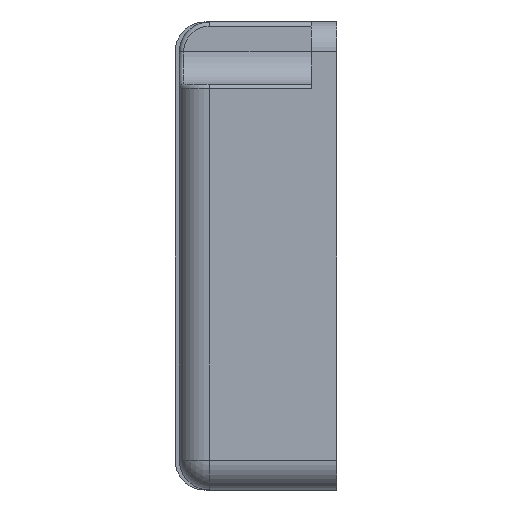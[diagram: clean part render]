
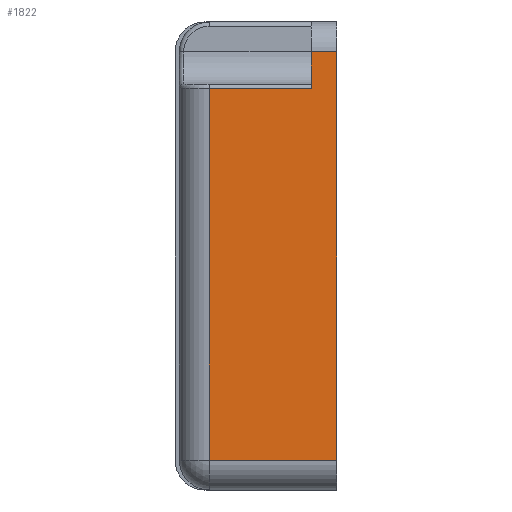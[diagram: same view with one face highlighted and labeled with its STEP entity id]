
A CAD part, left-side view. The second image highlights one B-rep face of the part: STEP entity #1822.
In plain terms, the highlighted planar face has unit normal (-1, 0, 0).
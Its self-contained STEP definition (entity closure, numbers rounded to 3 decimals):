
#28 = VERTEX_POINT ( 'NONE', #299 ) ;
#29 = VERTEX_POINT ( 'NONE', #298 ) ;
#30 = VERTEX_POINT ( 'NONE', #300 ) ;
#31 = VERTEX_POINT ( 'NONE', #1884 ) ;
#48 = VERTEX_POINT ( 'NONE', #478 ) ;
#74 = VERTEX_POINT ( 'NONE', #500 ) ;
#113 = ORIENTED_EDGE ( 'NONE', *, *, #1639, .F. ) ;
#114 = ORIENTED_EDGE ( 'NONE', *, *, #1640, .T. ) ;
#115 = ORIENTED_EDGE ( 'NONE', *, *, #1641, .T. ) ;
#116 = ORIENTED_EDGE ( 'NONE', *, *, #1642, .T. ) ;
#117 = ORIENTED_EDGE ( 'NONE', *, *, #1643, .T. ) ;
#118 = ORIENTED_EDGE ( 'NONE', *, *, #1644, .T. ) ;
#298 = CARTESIAN_POINT ( 'NONE',  ( -72.75, 15., -24. ) ) ;
#299 = CARTESIAN_POINT ( 'NONE',  ( -72.75, 15., 19.7 ) ) ;
#300 = CARTESIAN_POINT ( 'NONE',  ( -72.75, 0., -24. ) ) ;
#478 = CARTESIAN_POINT ( 'NONE',  ( -72.75, 3., 24. ) ) ;
#500 = CARTESIAN_POINT ( 'NONE',  ( -72.75, 3., 19.7 ) ) ;
#588 = VECTOR ( 'NONE', #702, 1000. ) ;
#660 = LINE ( 'NONE', #682, #674 ) ;
#667 = LINE ( 'NONE', #691, #670 ) ;
#669 = LINE ( 'NONE', #693, #672 ) ;
#670 = VECTOR ( 'NONE', #692, 1000. ) ;
#672 = VECTOR ( 'NONE', #695, 1000. ) ;
#673 = LINE ( 'NONE', #697, #676 ) ;
#674 = VECTOR ( 'NONE', #696, 1000. ) ;
#675 = LINE ( 'NONE', #699, #678 ) ;
#676 = VECTOR ( 'NONE', #698, 1000. ) ;
#677 = LINE ( 'NONE', #701, #588 ) ;
#678 = VECTOR ( 'NONE', #700, 1000. ) ;
#682 = CARTESIAN_POINT ( 'NONE',  ( -72.75, 15., -27.5 ) ) ;
#691 = CARTESIAN_POINT ( 'NONE',  ( -72.75, 3., 27.5 ) ) ;
#692 = DIRECTION ( 'NONE',  ( 0., 0., 1. ) ) ;
#693 = CARTESIAN_POINT ( 'NONE',  ( -72.75, 19., 19.7 ) ) ;
#695 = DIRECTION ( 'NONE',  ( 0., 1., 0. ) ) ;
#696 = DIRECTION ( 'NONE',  ( 0., 0., -1. ) ) ;
#697 = CARTESIAN_POINT ( 'NONE',  ( -72.75, 19., -24. ) ) ;
#698 = DIRECTION ( 'NONE',  ( 0., -1., 0. ) ) ;
#699 = CARTESIAN_POINT ( 'NONE',  ( -72.75, 0., -27.5 ) ) ;
#700 = DIRECTION ( 'NONE',  ( 0., 0., 1. ) ) ;
#701 = CARTESIAN_POINT ( 'NONE',  ( -72.75, 19., 24. ) ) ;
#702 = DIRECTION ( 'NONE',  ( 0., 1., 0. ) ) ;
#1063 = FACE_OUTER_BOUND ( 'NONE', #1597, .T. ) ;
#1125 = CARTESIAN_POINT ( 'NONE',  ( -72.75, 19., -27.5 ) ) ;
#1133 = DIRECTION ( 'NONE',  ( 1., 0., 0. ) ) ;
#1137 = DIRECTION ( 'NONE',  ( 0., 0., -1. ) ) ;
#1195 = PLANE ( 'NONE',  #1214 ) ;
#1214 = AXIS2_PLACEMENT_3D ( 'NONE', #1125, #1133, #1137 ) ;
#1597 = EDGE_LOOP ( 'NONE', ( #113, #114, #115, #116, #117, #118 ) ) ;
#1639 = EDGE_CURVE ( 'NONE', #74, #48, #667, .T. ) ;
#1640 = EDGE_CURVE ( 'NONE', #74, #28, #669, .T. ) ;
#1641 = EDGE_CURVE ( 'NONE', #28, #29, #660, .T. ) ;
#1642 = EDGE_CURVE ( 'NONE', #29, #30, #673, .T. ) ;
#1643 = EDGE_CURVE ( 'NONE', #30, #31, #675, .T. ) ;
#1644 = EDGE_CURVE ( 'NONE', #31, #48, #677, .T. ) ;
#1822 = ADVANCED_FACE ( 'NONE', ( #1063 ), #1195, .F. ) ;
#1884 = CARTESIAN_POINT ( 'NONE',  ( -72.75, 0., 24. ) ) ;
